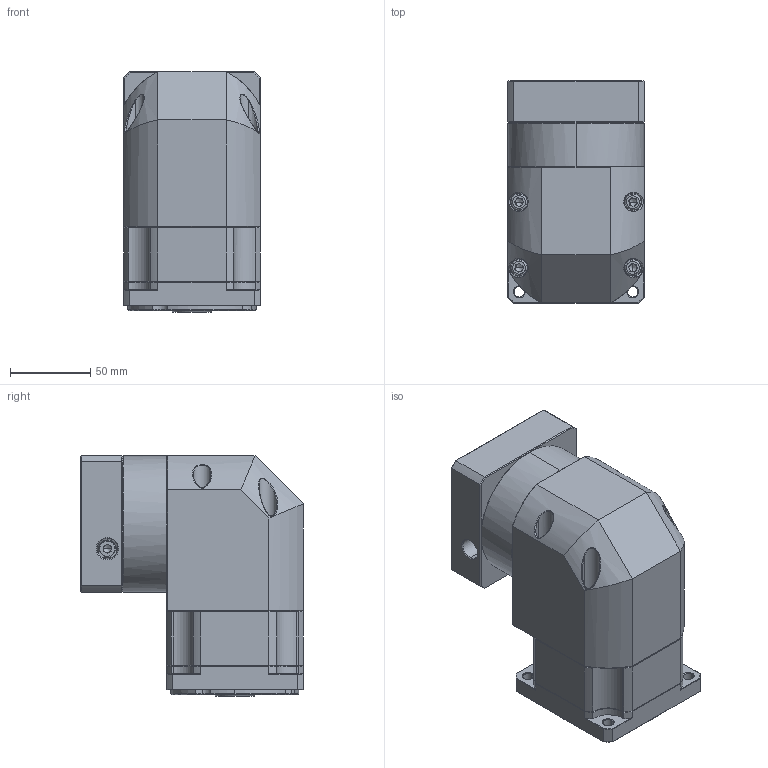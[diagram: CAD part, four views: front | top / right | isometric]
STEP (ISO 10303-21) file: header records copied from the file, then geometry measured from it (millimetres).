
FILE_DESCRIPTION (( 'STEP AP214' ), '1' );
FILE_NAME ('ZBR090-K15-L1-P2-19-80-100-M6.step', '2023-08-19T02:09:34', ( '' ), ( '' ), 'SwSTEP 2.0', 'SolidWorks 2016', '' );
FILE_SCHEMA (( 'AUTOMOTIVE_DESIGN' ));
Length unit declared in the file: millimetre
Products named in the file (1): ZBR090-K15-L1-P2-19-80-100-M6
Bounding box: 85 x 138.6 x 150 mm (x, y, z)
Volume: 1171265.8 mm3; surface area: 128933.1 mm2
Topology: 5 solids, 5 shells, 2347 faces, 6132 edges, 3878 vertices
Faces by surface type: plane 1148, bspline 414, cylinder 411, cone 350, torus 24
Entity records: 123833 total; most frequent: CARTESIAN_POINT 43747, ORIENTED_EDGE 12192, DIRECTION 9752, EDGE_CURVE 6096, VECTOR 3904, LINE 3904, VERTEX_POINT 3878, AXIS2_PLACEMENT_3D 2924
